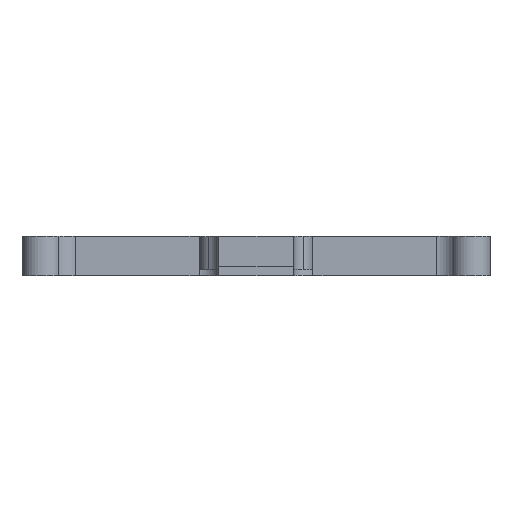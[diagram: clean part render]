
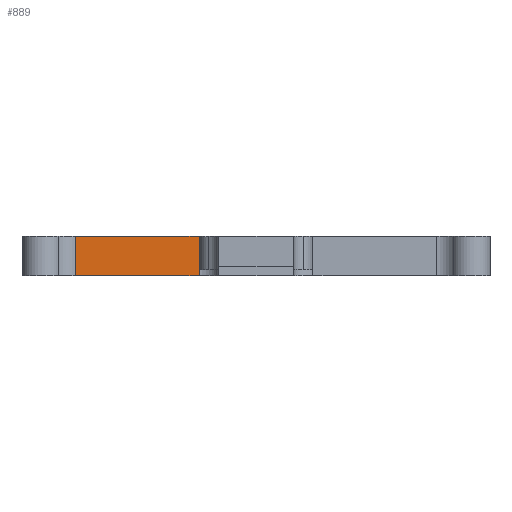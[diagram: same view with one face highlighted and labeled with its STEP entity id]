
A CAD part, left-side view. The second image highlights one B-rep face of the part: STEP entity #889.
In plain terms, the highlighted planar face has unit normal (-1, 0, 0).
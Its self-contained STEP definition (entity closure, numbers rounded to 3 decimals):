
#736=CARTESIAN_POINT('Line Origine',(57.48,13.902,1.5)) ;
#740=CARTESIAN_POINT('Vertex',(57.48,13.902,3.)) ;
#742=CARTESIAN_POINT('Vertex',(57.48,13.902,0.)) ;
#789=CARTESIAN_POINT('Vertex',(57.48,4.38,3.)) ;
#792=CARTESIAN_POINT('Line Origine',(57.48,4.38,1.5)) ;
#796=CARTESIAN_POINT('Vertex',(57.48,4.38,0.)) ;
#868=CARTESIAN_POINT('Axis2P3D Location',(57.48,2.88,0.)) ;
#873=CARTESIAN_POINT('Line Origine',(57.48,9.141,3.)) ;
#878=CARTESIAN_POINT('Line Origine',(57.48,9.141,0.)) ;
#737=DIRECTION('Vector Direction',(0.,0.,-1.)) ;
#793=DIRECTION('Vector Direction',(0.,0.,1.)) ;
#869=DIRECTION('Axis2P3D Direction',(1.,0.,0.)) ;
#870=DIRECTION('Axis2P3D XDirection',(0.,1.,0.)) ;
#874=DIRECTION('Vector Direction',(0.,1.,0.)) ;
#879=DIRECTION('Vector Direction',(0.,1.,0.)) ;
#871=AXIS2_PLACEMENT_3D('Plane Axis2P3D',#868,#869,#870) ;
#884=ORIENTED_EDGE('',*,*,#798,.F.) ;
#885=ORIENTED_EDGE('',*,*,#877,.F.) ;
#886=ORIENTED_EDGE('',*,*,#744,.T.) ;
#887=ORIENTED_EDGE('',*,*,#882,.T.) ;
#738=VECTOR('Line Direction',#737,1.) ;
#794=VECTOR('Line Direction',#793,1.) ;
#875=VECTOR('Line Direction',#874,1.) ;
#880=VECTOR('Line Direction',#879,1.) ;
#889=ADVANCED_FACE('Corps principal',(#888),#872,.F.) ;
#744=EDGE_CURVE('',#741,#743,#739,.T.) ;
#798=EDGE_CURVE('',#790,#797,#795,.F.) ;
#877=EDGE_CURVE('',#741,#790,#876,.F.) ;
#882=EDGE_CURVE('',#743,#797,#881,.F.) ;
#883=EDGE_LOOP('',(#884,#885,#886,#887)) ;
#888=FACE_OUTER_BOUND('',#883,.T.) ;
#739=LINE('Line',#736,#738) ;
#795=LINE('Line',#792,#794) ;
#876=LINE('Line',#873,#875) ;
#881=LINE('Line',#878,#880) ;
#872=PLANE('Plane',#871) ;
#741=VERTEX_POINT('',#740) ;
#743=VERTEX_POINT('',#742) ;
#790=VERTEX_POINT('',#789) ;
#797=VERTEX_POINT('',#796) ;
